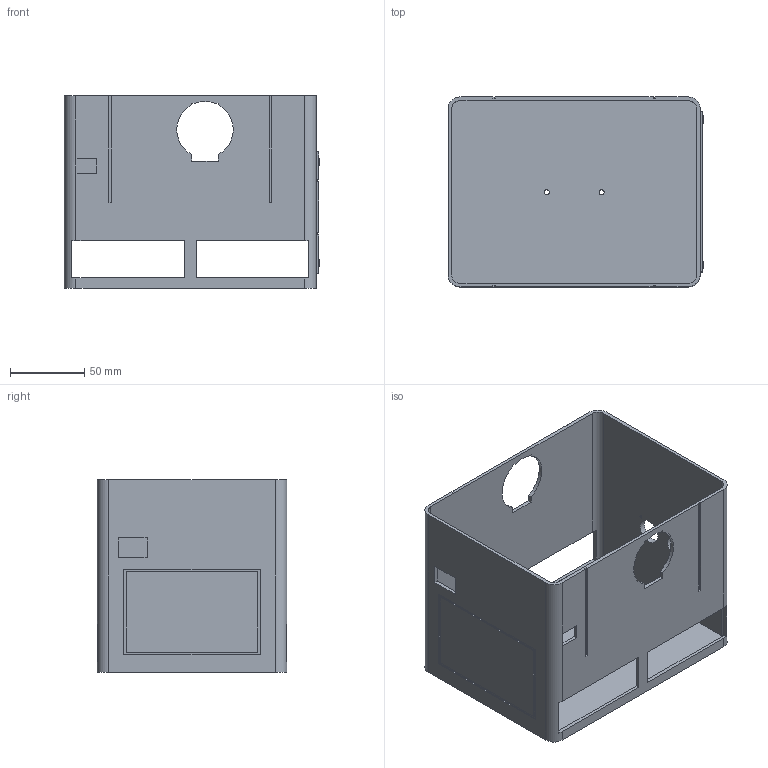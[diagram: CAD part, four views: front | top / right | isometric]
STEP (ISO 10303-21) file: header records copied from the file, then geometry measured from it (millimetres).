
FILE_DESCRIPTION(('Open CASCADE Model'),'2;1');
FILE_NAME('Open CASCADE Shape Model','2026-11-19T06:39:18',('Author'),( 'Open CASCADE'),'Open CASCADE STEP processor 8.0','Open CASCADE 8.0' ,'Unknown');
FILE_SCHEMA(('AUTOMOTIVE_DESIGN { 1 0 10303 214 1 1 1 1 }'));
Length unit declared in the file: millimetre
Products named in the file (1): Open CASCADE STEP translator 8.0 11
Bounding box: 172.5 x 128 x 130 mm (x, y, z)
Volume: 214497.5 mm3; surface area: 175219.9 mm2
Topology: 1 solids, 1 shells, 122 faces, 354 edges, 236 vertices
Faces by surface type: plane 96, cylinder 26
Full cylindrical faces by diameter (mm): 1.75 x4, 3.35 x2, 4.8 x4, 16.65 x2
Entity records: 8430 total; most frequent: CARTESIAN_POINT 1769, DIRECTION 1092, ORIENTED_EDGE 708, PCURVE 708, DEFINITIONAL_REPRESENTATION 708, LINE 642, VECTOR 642, EDGE_CURVE 354
